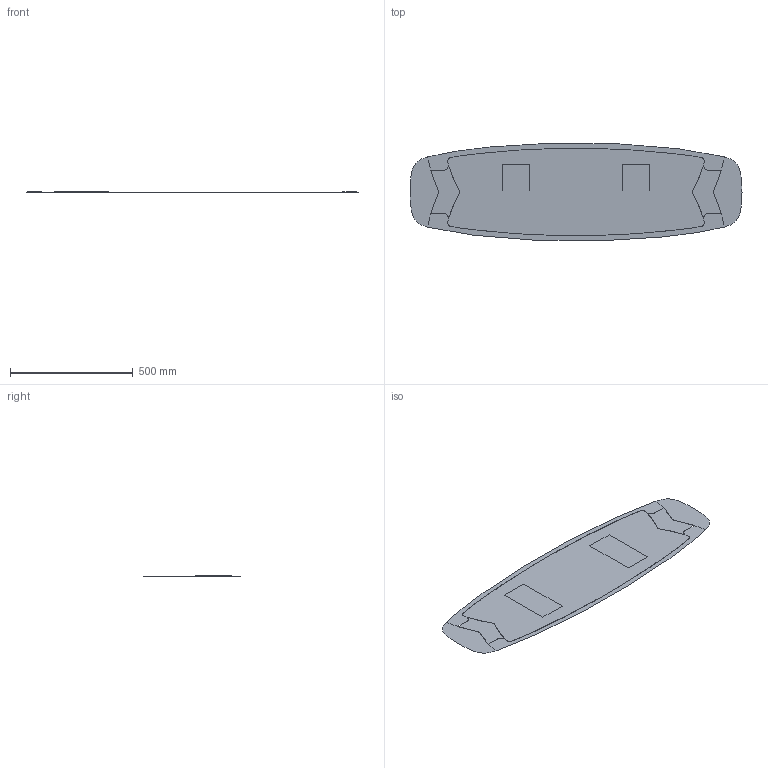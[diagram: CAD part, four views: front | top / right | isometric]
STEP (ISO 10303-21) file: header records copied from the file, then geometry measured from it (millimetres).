
FILE_DESCRIPTION( ( 'STEP Version 203' ), '1' );
FILE_NAME( 'D:/current_projects/workshops_ACP/SVN_repository/2019R1/workshops/Workshop_3_Kiteboard/kiteboard.stp', '11/15/18 12:52:26', ( 'fpavia' ), ( ' ' ), 'PSStep 21.0.47', 'DesignModeler STEP Output', ' ' );
FILE_SCHEMA( ( 'CONFIG_CONTROL_DESIGN' ) );
Length unit declared in the file: metre
Products named in the file (7): aaaa_51; aaab_93; aaac_135; aaad_183; aaae_237; aaaf_285; aaag_339
Bounding box: 1350.61 x 397.25 x 0 mm (x, y, z)
Surface area: 474690.9 mm2 (no closed solid volume)
Topology: 0 solids, 9 shells, 9 faces, 48 edges, 48 vertices
Faces by surface type: plane 9
Entity records: 1136 total; most frequent: CARTESIAN_POINT 614, DIRECTION 64, ORIENTED_EDGE 48, EDGE_CURVE 48, VERTEX_POINT 48, CC_DESIGN_PERSON_AND_ORGANIZATION_ASSIGNMENT 29, AXIS2_PLACEMENT_3D 24, B_SPLINE_CURVE_WITH_KNOTS 24
